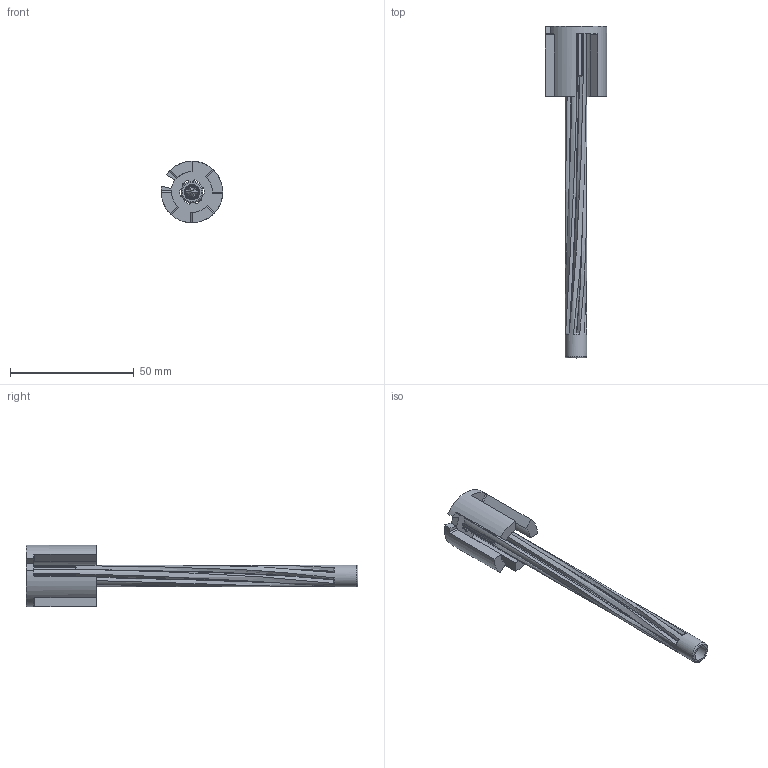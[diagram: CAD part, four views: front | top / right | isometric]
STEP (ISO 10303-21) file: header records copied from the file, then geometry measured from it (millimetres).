
FILE_DESCRIPTION(/* description */ (''),/* implementation_level */ '2;1');
FILE_NAME(/* name */ 'D:\Downloads\Project-ButWhatAbout-ECM-9x19-Barrel-DIY-V1-Package (3)\Revised Components\asdf\ECM CAD\STEP\Rifling Mandrel - Wire Based Progressive Twist (50-10) 4.5in 8.82mm ID Barrel.stp',/* time_stamp */ '2021-02-15T01:40:27-06:00',/* author */ ('johne'),/* organization */ (''),/* preprocessor_version */ 'ST-DEVELOPER v18',/* originating_system */ 'Autodesk Inventor 2020',/* authorisation */ '');
FILE_SCHEMA (('AUTOMOTIVE_DESIGN { 1 0 10303 214 3 1 1 }'));
Length unit declared in the file: inch
Products named in the file (1): Rifling Mandrel twist gain Wire Based
Bounding box: 24.84 x 134.05 x 24.84 mm (x, y, z)
Volume: 10216.9 mm3; surface area: 10268.8 mm2
Topology: 1 solids, 1 shells, 185 faces, 629 edges, 395 vertices
Faces by surface type: bspline 74, cylinder 52, plane 45, cone 7, torus 7
Full cylindrical faces by diameter (mm): 6.35 x2, 8.82 x1
Entity records: 11728 total; most frequent: CARTESIAN_POINT 7082, ORIENTED_EDGE 1210, DIRECTION 664, EDGE_CURVE 605, VERTEX_POINT 395, B_SPLINE_CURVE_WITH_KNOTS 277, AXIS2_PLACEMENT_3D 260, EDGE_LOOP 194
